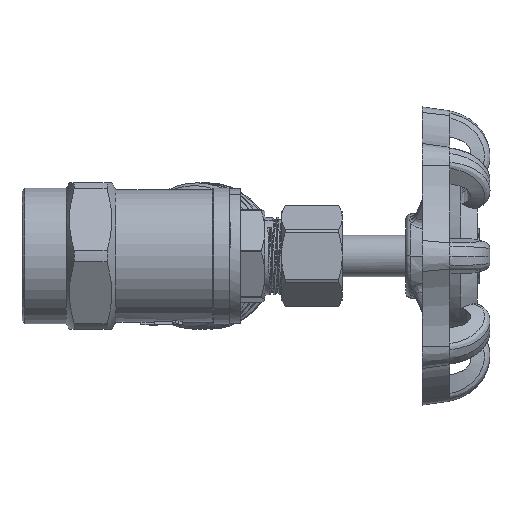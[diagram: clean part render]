
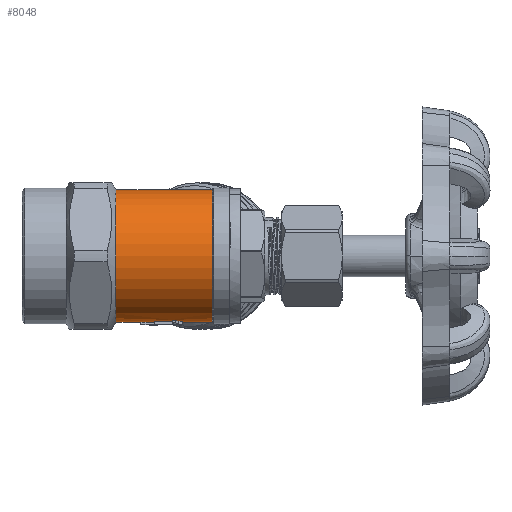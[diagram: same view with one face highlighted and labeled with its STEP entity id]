
A CAD part, front view. The second image highlights one B-rep face of the part: STEP entity #8048.
In plain terms, the highlighted cylindrical face has radius 12 mm (diameter 24 mm), a partial arc.
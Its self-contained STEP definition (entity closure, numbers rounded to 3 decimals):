
#1825=DIRECTION('',(1.,0.,0.));
#1826=VECTOR('',#1825,9.923);
#1827=CARTESIAN_POINT('',(4.077,0.,-12.));
#1828=LINE('',#1827,#1826);
#1883=DIRECTION('',(1.,0.,0.));
#1884=VECTOR('',#1883,17.5);
#1885=CARTESIAN_POINT('',(-3.5,0.,12.));
#1886=LINE('',#1885,#1884);
#1892=DIRECTION('',(1.,0.,0.));
#1893=VECTOR('',#1892,6.286);
#1894=CARTESIAN_POINT('',(-3.5,0.,-12.));
#1895=LINE('',#1894,#1893);
#2111=CARTESIAN_POINT('',(7.852,-2.2,
-11.797));
#2112=CARTESIAN_POINT('',(7.884,-2.164,
-11.803));
#2113=CARTESIAN_POINT('',(7.949,-2.093,
-11.816));
#2114=CARTESIAN_POINT('',(8.052,-1.992,
-11.834));
#2115=CARTESIAN_POINT('',(8.159,-1.895,
-11.849));
#2116=CARTESIAN_POINT('',(8.273,-1.805,
-11.864));
#2117=CARTESIAN_POINT('',(8.393,-1.723,
-11.876));
#2118=CARTESIAN_POINT('',(8.477,-1.676,
-11.882));
#2119=CARTESIAN_POINT('',(8.52,-1.654,
-11.885));
#2121=CARTESIAN_POINT('',(7.265,-3.1,
-11.593));
#2122=CARTESIAN_POINT('',(7.32,-2.984,
-11.624));
#2123=CARTESIAN_POINT('',(7.437,-2.761,
-11.679));
#2124=CARTESIAN_POINT('',(7.635,-2.459,
-11.747));
#2125=CARTESIAN_POINT('',(7.778,-2.282,
-11.781));
#2126=CARTESIAN_POINT('',(7.852,-2.2,
-11.797));
#2128=DIRECTION('',(1.,0.,0.));
#2129=VECTOR('',#2128,0.593);
#2130=CARTESIAN_POINT('',(6.672,-3.1,
-11.593));
#2131=LINE('',#2130,#2129);
#2132=CARTESIAN_POINT('',(6.988,-2.455,
-11.746));
#2133=CARTESIAN_POINT('',(6.944,-2.529,
-11.731));
#2134=CARTESIAN_POINT('',(6.861,-2.676,
-11.699));
#2135=CARTESIAN_POINT('',(6.754,-2.891,
-11.647));
#2136=CARTESIAN_POINT('',(6.697,-3.031,
-11.611));
#2137=CARTESIAN_POINT('',(6.672,-3.1,
-11.593));
#2139=CARTESIAN_POINT('',(7.412,-1.872,
-11.853));
#2140=CARTESIAN_POINT('',(7.361,-1.926,
-11.845));
#2141=CARTESIAN_POINT('',(7.263,-2.041,
-11.826));
#2142=CARTESIAN_POINT('',(7.122,-2.237,
-11.79));
#2143=CARTESIAN_POINT('',(7.032,-2.38,
-11.762));
#2144=CARTESIAN_POINT('',(6.988,-2.455,
-11.746));
#2146=DIRECTION('',(1.,0.,0.));
#2147=VECTOR('',#2146,3.912);
#2148=CARTESIAN_POINT('',(3.5,-1.872,-11.853));
#2149=LINE('',#2148,#2147);
#2150=CARTESIAN_POINT('',(3.5,0.,0.));
#2151=DIRECTION('',(1.,0.,0.));
#2152=DIRECTION('',(0.,-0.156,-0.988));
#2153=AXIS2_PLACEMENT_3D('',#2150,#2151,#2152);
#2155=DIRECTION('',(1.,0.,0.));
#2156=VECTOR('',#2155,5.02);
#2157=CARTESIAN_POINT('',(3.5,-1.258,-11.934));
#2158=LINE('',#2157,#2156);
#2159=CARTESIAN_POINT('',(8.52,0.,0.));
#2160=DIRECTION('',(1.,0.,0.));
#2161=DIRECTION('',(0.,-0.138,-0.99));
#2162=AXIS2_PLACEMENT_3D('',#2159,#2160,#2161);
#2164=CARTESIAN_POINT('',(1.,-1.12,-11.948));
#2165=CARTESIAN_POINT('',(2.023,-0.748,
-11.983));
#2166=CARTESIAN_POINT('',(3.05,-0.374,-12.));
#2167=CARTESIAN_POINT('',(4.077,0.,-12.));
#2169=CARTESIAN_POINT('',(1.,0.,0.));
#2170=DIRECTION('',(1.,0.,0.));
#2171=DIRECTION('',(0.,-0.093,-0.996));
#2172=AXIS2_PLACEMENT_3D('',#2169,#2170,#2171);
#2174=CARTESIAN_POINT('',(1.,-0.65,-11.982));
#2175=CARTESIAN_POINT('',(1.595,-0.434,
-11.994));
#2176=CARTESIAN_POINT('',(2.19,-0.217,-12.));
#2177=CARTESIAN_POINT('',(2.786,0.,-12.));
#2179=CARTESIAN_POINT('',(-3.5,0.,0.));
#2180=DIRECTION('',(1.,0.,0.));
#2181=DIRECTION('',(0.,0.,1.));
#2182=AXIS2_PLACEMENT_3D('',#2179,#2180,#2181);
#2924=CARTESIAN_POINT('',(14.,0.,0.));
#2925=DIRECTION('',(1.,0.,0.));
#2926=DIRECTION('',(0.,0.,1.));
#2927=AXIS2_PLACEMENT_3D('',#2924,#2925,#2926);
#4433=CARTESIAN_POINT('',(-3.5,0.,12.));
#4434=CARTESIAN_POINT('',(14.,0.,12.));
#4435=VERTEX_POINT('',#4433);
#4436=VERTEX_POINT('',#4434);
#4449=CARTESIAN_POINT('',(-3.5,0.,-12.));
#4450=VERTEX_POINT('',#4449);
#4451=CARTESIAN_POINT('',(14.,0.,-12.));
#4452=VERTEX_POINT('',#4451);
#4669=VERTEX_POINT('',#2111);
#4670=VERTEX_POINT('',#2119);
#4673=VERTEX_POINT('',#2121);
#4675=CARTESIAN_POINT('',(6.672,-3.1,
-11.593));
#4676=VERTEX_POINT('',#4675);
#4679=VERTEX_POINT('',#2132);
#4681=VERTEX_POINT('',#2139);
#4683=CARTESIAN_POINT('',(3.5,-1.872,-11.853));
#4684=VERTEX_POINT('',#4683);
#4687=CARTESIAN_POINT('',(3.5,-1.258,-11.934));
#4688=VERTEX_POINT('',#4687);
#4691=CARTESIAN_POINT('',(8.52,-1.258,
-11.934));
#4692=VERTEX_POINT('',#4691);
#4695=VERTEX_POINT('',#2164);
#4696=VERTEX_POINT('',#2167);
#4699=CARTESIAN_POINT('',(1.,-0.65,-11.982));
#4700=VERTEX_POINT('',#4699);
#4703=VERTEX_POINT('',#2177);
#8009=CARTESIAN_POINT('',(-22.375,0.,0.));
#8010=DIRECTION('',(1.,0.,0.));
#8011=DIRECTION('',(0.,0.,1.));
#8012=AXIS2_PLACEMENT_3D('',#8009,#8010,#8011);
#8013=CYLINDRICAL_SURFACE('',#8012,12.);
#8015=ORIENTED_EDGE('',*,*,#8014,.F.);
#8017=ORIENTED_EDGE('',*,*,#8016,.T.);
#8018=ORIENTED_EDGE('',*,*,#7999,.T.);
#8019=ORIENTED_EDGE('',*,*,#7836,.F.);
#8021=ORIENTED_EDGE('',*,*,#8020,.F.);
#8022=ORIENTED_EDGE('',*,*,#7832,.T.);
#8024=ORIENTED_EDGE('',*,*,#8023,.T.);
#8025=ORIENTED_EDGE('',*,*,#7823,.F.);
#8026=EDGE_LOOP('',(#8015,#8017,#8018,#8019,#8021,#8022,#8024,#8025));
#8027=FACE_OUTER_BOUND('',#8026,.F.);
#8029=ORIENTED_EDGE('',*,*,#8028,.F.);
#8031=ORIENTED_EDGE('',*,*,#8030,.F.);
#8033=ORIENTED_EDGE('',*,*,#8032,.F.);
#8035=ORIENTED_EDGE('',*,*,#8034,.F.);
#8037=ORIENTED_EDGE('',*,*,#8036,.F.);
#8039=ORIENTED_EDGE('',*,*,#8038,.F.);
#8041=ORIENTED_EDGE('',*,*,#8040,.T.);
#8043=ORIENTED_EDGE('',*,*,#8042,.T.);
#8045=ORIENTED_EDGE('',*,*,#8044,.F.);
#8046=EDGE_LOOP('',(#8029,#8031,#8033,#8035,#8037,#8039,#8041,#8043,#8045));
#8047=FACE_BOUND('',#8046,.F.);
#2120=B_SPLINE_CURVE_WITH_KNOTS('',3,(#2111,#2112,#2113,#2114,#2115,#2116,#2117,
#2118,#2119),.UNSPECIFIED.,.F.,.F.,(4,1,1,1,1,1,4),(0.,0.167,
0.333,0.5,0.667,0.833,1.),
.UNSPECIFIED.);
#2127=B_SPLINE_CURVE_WITH_KNOTS('',3,(#2121,#2122,#2123,#2124,#2125,#2126),
.UNSPECIFIED.,.F.,.F.,(4,1,1,4),(0.,0.333,0.667,1.),
.UNSPECIFIED.);
#2138=B_SPLINE_CURVE_WITH_KNOTS('',3,(#2132,#2133,#2134,#2135,#2136,#2137),
.UNSPECIFIED.,.F.,.F.,(4,1,1,4),(0.,0.333,0.667,1.),
.UNSPECIFIED.);
#2145=B_SPLINE_CURVE_WITH_KNOTS('',3,(#2139,#2140,#2141,#2142,#2143,#2144),
.UNSPECIFIED.,.F.,.F.,(4,1,1,4),(0.,0.333,0.667,1.),
.UNSPECIFIED.);
#2154=CIRCLE('',#2153,12.);
#2163=CIRCLE('',#2162,12.);
#2168=B_SPLINE_CURVE_WITH_KNOTS('',3,(#2164,#2165,#2166,#2167),.UNSPECIFIED.,
.F.,.F.,(4,4),(0.,1.),.UNSPECIFIED.);
#2173=CIRCLE('',#2172,12.);
#2178=B_SPLINE_CURVE_WITH_KNOTS('',3,(#2174,#2175,#2176,#2177),.UNSPECIFIED.,
.F.,.F.,(4,4),(0.,1.),.UNSPECIFIED.);
#2183=CIRCLE('',#2182,12.);
#2928=CIRCLE('',#2927,12.);
#7823=EDGE_CURVE('',#4696,#4452,#1828,.T.);
#7832=EDGE_CURVE('',#4435,#4436,#1886,.T.);
#7836=EDGE_CURVE('',#4450,#4703,#1895,.T.);
#7999=EDGE_CURVE('',#4700,#4703,#2178,.T.);
#8014=EDGE_CURVE('',#4695,#4696,#2168,.T.);
#8016=EDGE_CURVE('',#4695,#4700,#2173,.T.);
#8020=EDGE_CURVE('',#4435,#4450,#2183,.T.);
#8023=EDGE_CURVE('',#4436,#4452,#2928,.T.);
#8028=EDGE_CURVE('',#4669,#4670,#2120,.T.);
#8030=EDGE_CURVE('',#4673,#4669,#2127,.T.);
#8032=EDGE_CURVE('',#4676,#4673,#2131,.T.);
#8034=EDGE_CURVE('',#4679,#4676,#2138,.T.);
#8036=EDGE_CURVE('',#4681,#4679,#2145,.T.);
#8038=EDGE_CURVE('',#4684,#4681,#2149,.T.);
#8040=EDGE_CURVE('',#4684,#4688,#2154,.T.);
#8042=EDGE_CURVE('',#4688,#4692,#2158,.T.);
#8044=EDGE_CURVE('',#4670,#4692,#2163,.T.);
#8048=ADVANCED_FACE('',(#8027,#8047),#8013,.T.);
